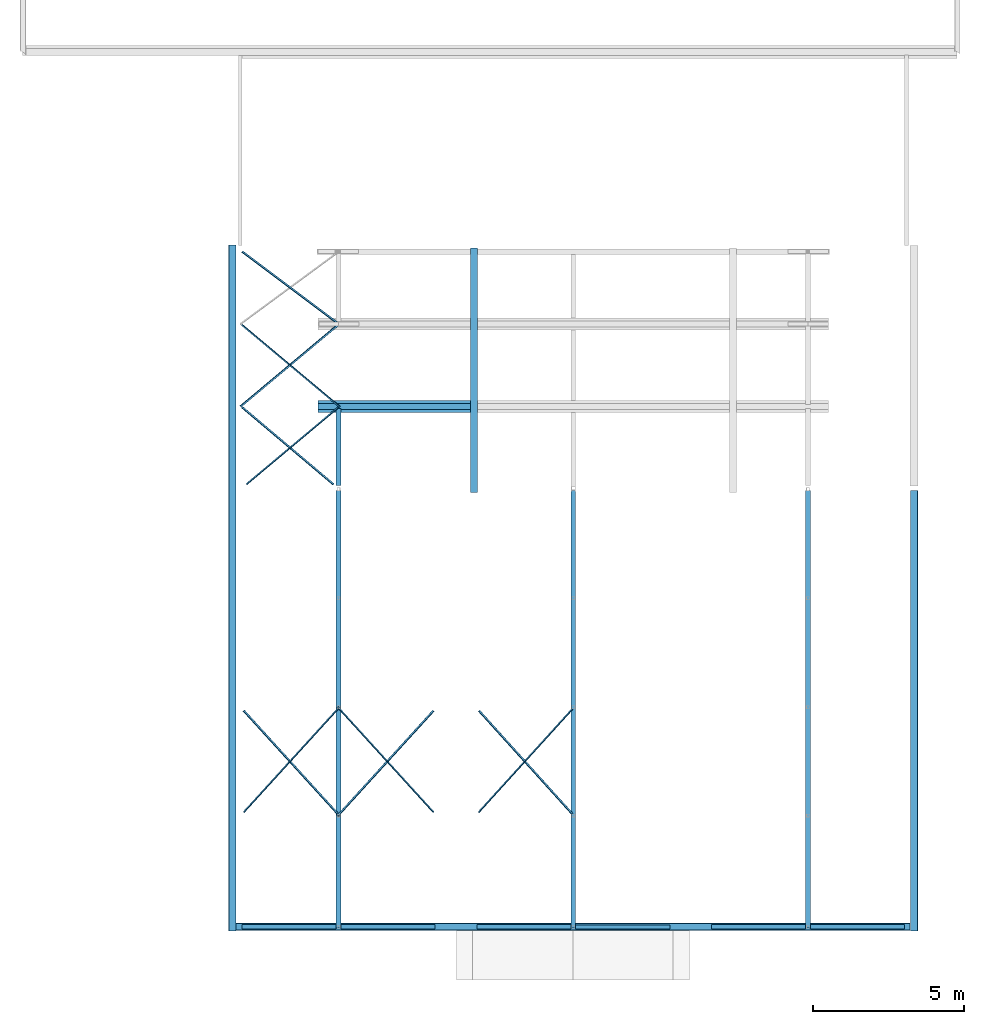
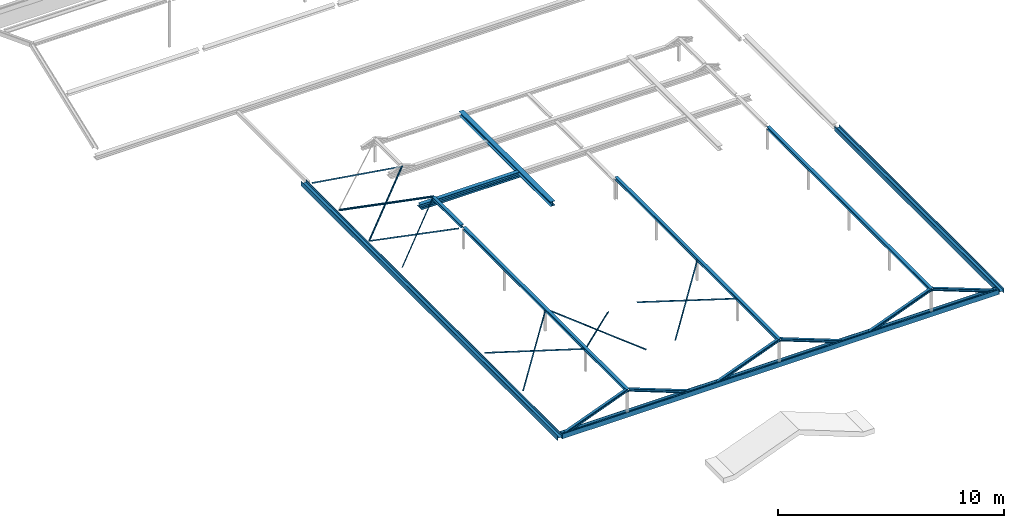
# One storey, part 5 of 10: 26 beams.
"""IFC2X3 building model written with IfcOpenShell, lengths in millimetres."""

from ifc_helpers import new_model, entity, si_unit, converted_unit, derived_unit, direction, frame, frame_2d, origin, place, context, subcontext, project, spatial, polyline, rectangle, i_section, outline, extrude, clip, halfspace, source, transform, mapped, material, type_object, type_shapes, element, save


model = new_model("IFC2X3")

# Units and contexts
model_context = context("Model", 3, precision=0.01, world=origin(), true_north=direction((6.123031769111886e-17, 1.0)))
body_context = subcontext(model_context, "Body", "Model", "MODEL_VIEW")
ifc_project = project(units=[si_unit("LENGTHUNIT", "METRE", prefix="MILLI"), si_unit("AREAUNIT", "SQUARE_METRE", prefix="MILLI"), si_unit("VOLUMEUNIT", "CUBIC_METRE"), converted_unit("PLANEANGLEUNIT", "DEGREE", entity("IfcPlaneAngleMeasure", 0.017453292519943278), si_unit("PLANEANGLEUNIT", "RADIAN"), dimensions=[0, 0, 0, 0, 0, 0, 0]), si_unit("MASSUNIT", "GRAM", prefix="KILO"), derived_unit("MASSDENSITYUNIT", [(si_unit("MASSUNIT", "GRAM", prefix="KILO"), 1), (si_unit("LENGTHUNIT", "METRE"), -3)]), derived_unit("IONCONCENTRATIONUNIT", [(si_unit("MASSUNIT", "GRAM", prefix="KILO"), 1), (si_unit("LENGTHUNIT", "METRE"), -3)]), derived_unit("MOMENTOFINERTIAUNIT", [(si_unit("LENGTHUNIT", "METRE"), 4)]), si_unit("TIMEUNIT", "SECOND"), si_unit("FREQUENCYUNIT", "HERTZ"), si_unit("THERMODYNAMICTEMPERATUREUNIT", "DEGREE_CELSIUS"), derived_unit("THERMALTRANSMITTANCEUNIT", [(si_unit("MASSUNIT", "GRAM", prefix="KILO"), 1), (si_unit("THERMODYNAMICTEMPERATUREUNIT", "KELVIN"), -1), (si_unit("TIMEUNIT", "SECOND"), -3)]), derived_unit("THERMALCONDUCTANCEUNIT", [(si_unit("MASSUNIT", "GRAM", prefix="KILO"), 1), (si_unit("THERMODYNAMICTEMPERATUREUNIT", "KELVIN"), -1), (si_unit("TIMEUNIT", "SECOND"), -3), (si_unit("LENGTHUNIT", "METRE"), 1)]), derived_unit("VOLUMETRICFLOWRATEUNIT", [(si_unit("LENGTHUNIT", "METRE", prefix="DECI"), 3), (si_unit("TIMEUNIT", "SECOND"), -1)]), derived_unit("MASSFLOWRATEUNIT", [(si_unit("MASSUNIT", "GRAM", prefix="KILO"), 1), (si_unit("TIMEUNIT", "SECOND"), -1)]), derived_unit("ROTATIONALFREQUENCYUNIT", [(si_unit("TIMEUNIT", "SECOND"), -1)]), si_unit("ELECTRICCURRENTUNIT", "AMPERE"), si_unit("ELECTRICVOLTAGEUNIT", "VOLT"), si_unit("POWERUNIT", "WATT"), si_unit("FORCEUNIT", "NEWTON", prefix="KILO"), si_unit("ILLUMINANCEUNIT", "LUX"), si_unit("LUMINOUSFLUXUNIT", "LUMEN"), si_unit("LUMINOUSINTENSITYUNIT", "CANDELA"), si_unit("ENERGYUNIT", "JOULE"), derived_unit("USERDEFINED", [(si_unit("MASSUNIT", "GRAM", prefix="KILO"), -1), (si_unit("LENGTHUNIT", "METRE"), -2), (si_unit("TIMEUNIT", "SECOND"), 3), (si_unit("LUMINOUSFLUXUNIT", "LUMEN"), 1)]), derived_unit("USERDEFINED", [(si_unit("MASSUNIT", "GRAM", prefix="KILO"), 1), (si_unit("TIMEUNIT", "SECOND"), -3), (si_unit("LENGTHUNIT", "METRE"), 3), (si_unit("ELECTRICCURRENTUNIT", "AMPERE"), -2)]), derived_unit("SOUNDPOWERUNIT", [(si_unit("MASSUNIT", "GRAM", prefix="KILO"), 1), (si_unit("TIMEUNIT", "SECOND"), -3), (si_unit("LENGTHUNIT", "METRE"), 2)]), derived_unit("SOUNDPRESSUREUNIT", [(si_unit("MASSUNIT", "GRAM", prefix="KILO"), 1), (si_unit("LENGTHUNIT", "METRE"), -1), (si_unit("TIMEUNIT", "SECOND"), -2)]), derived_unit("LINEARVELOCITYUNIT", [(si_unit("LENGTHUNIT", "METRE"), 1), (si_unit("TIMEUNIT", "SECOND"), -1)]), si_unit("PRESSUREUNIT", "PASCAL"), derived_unit("USERDEFINED", [(si_unit("MASSUNIT", "GRAM", prefix="KILO"), 1), (si_unit("LENGTHUNIT", "METRE"), -2), (si_unit("TIMEUNIT", "SECOND"), -2)]), derived_unit("LINEARFORCEUNIT", [(si_unit("MASSUNIT", "GRAM", prefix="KILO"), 1), (si_unit("TIMEUNIT", "SECOND"), -2)]), derived_unit("PLANARFORCEUNIT", [(si_unit("MASSUNIT", "GRAM", prefix="KILO"), 1), (si_unit("LENGTHUNIT", "METRE"), -1), (si_unit("TIMEUNIT", "SECOND"), -2)]), derived_unit("SPECIFICHEATCAPACITYUNIT", [(si_unit("THERMODYNAMICTEMPERATUREUNIT", "KELVIN"), -1), (si_unit("LENGTHUNIT", "METRE"), 2), (si_unit("TIMEUNIT", "SECOND"), -2)]), derived_unit("HEATFLUXDENSITYUNIT", [(si_unit("MASSUNIT", "GRAM", prefix="KILO"), 1), (si_unit("TIMEUNIT", "SECOND"), -3)]), derived_unit("HEATINGVALUEUNIT", [(si_unit("LENGTHUNIT", "METRE"), 2), (si_unit("TIMEUNIT", "SECOND"), -2)]), derived_unit("VAPORPERMEABILITYUNIT", [(si_unit("LENGTHUNIT", "METRE"), -1), (si_unit("TIMEUNIT", "SECOND"), 1)]), derived_unit("DYNAMICVISCOSITYUNIT", [(si_unit("MASSUNIT", "GRAM", prefix="KILO"), 1), (si_unit("TIMEUNIT", "SECOND"), -1), (si_unit("LENGTHUNIT", "METRE"), -1)]), derived_unit("THERMALEXPANSIONCOEFFICIENTUNIT", [(si_unit("THERMODYNAMICTEMPERATUREUNIT", "KELVIN"), -1)]), derived_unit("MODULUSOFELASTICITYUNIT", [(si_unit("MASSUNIT", "GRAM", prefix="KILO"), 1), (si_unit("LENGTHUNIT", "METRE"), -1), (si_unit("TIMEUNIT", "SECOND"), -2)]), derived_unit("ISOTHERMALMOISTURECAPACITYUNIT", [(si_unit("MASSUNIT", "GRAM", prefix="KILO"), -1), (si_unit("LENGTHUNIT", "METRE"), 3)]), derived_unit("MOISTUREDIFFUSIVITYUNIT", [(si_unit("TIMEUNIT", "SECOND"), -1), (si_unit("LENGTHUNIT", "METRE"), 2)]), derived_unit("MASSPERLENGTHUNIT", [(si_unit("MASSUNIT", "GRAM", prefix="KILO"), 1), (si_unit("LENGTHUNIT", "METRE"), -1)]), derived_unit("THERMALRESISTANCEUNIT", [(si_unit("MASSUNIT", "GRAM", prefix="KILO"), -1), (si_unit("TIMEUNIT", "SECOND"), 3), (si_unit("THERMODYNAMICTEMPERATUREUNIT", "KELVIN"), 1)]), derived_unit("ACCELERATIONUNIT", [(si_unit("LENGTHUNIT", "METRE"), 1), (si_unit("TIMEUNIT", "SECOND"), -2)]), derived_unit("ANGULARVELOCITYUNIT", [(si_unit("TIMEUNIT", "SECOND"), -1), (si_unit("PLANEANGLEUNIT", "RADIAN"), 1)]), derived_unit("LINEARSTIFFNESSUNIT", [(si_unit("MASSUNIT", "GRAM", prefix="KILO"), 1), (si_unit("TIMEUNIT", "SECOND"), -2)]), derived_unit("WARPINGCONSTANTUNIT", [(si_unit("LENGTHUNIT", "METRE"), 6)]), derived_unit("LINEARMOMENTUNIT", [(si_unit("MASSUNIT", "GRAM", prefix="KILO"), 1), (si_unit("LENGTHUNIT", "METRE"), 1), (si_unit("TIMEUNIT", "SECOND"), -2)]), derived_unit("TORQUEUNIT", [(si_unit("MASSUNIT", "GRAM", prefix="KILO"), 1), (si_unit("LENGTHUNIT", "METRE"), 2), (si_unit("TIMEUNIT", "SECOND"), -2)])], contexts=[model_context])

# Site, building, storey
site_placement = place(None, origin())
site = spatial("IfcSite", under=ifc_project, at=site_placement, Name="Default", CompositionType="ELEMENT")
building_placement = place(site_placement, origin())
building = spatial("IfcBuilding", under=site, at=building_placement, CompositionType="ELEMENT")
storey_placement = place(building_placement, frame((0.0, 0.0, 11700.0)))
storey = spatial("IfcBuildingStorey", under=building, at=storey_placement, Name="V4 BK metselwerk", CompositionType="ELEMENT", Elevation=11699.999999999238)

# Beams
ifc_material = material(Name="Metal - Steel - S235 JRG2 (standaard)")
beam_type_1 = type_object("IfcBeamType", Name="btl_staal - HE(a-b-m):HEA160.", PredefinedType="NOTDEFINED")
beam_1_placement = place(storey_placement, frame((10225.896298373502, 20157.92931863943, 409.70628815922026), z_axis=(0.0, 0.0, 1.0), x_axis=(0.0, -1.0, 0.0)))
element("IfcBeam", 1, at=beam_1_placement, inside=storey, type_object=beam_type_1, material=ifc_material, Name="btl_staal - HE(a-b-m):HEA160.", ObjectType="btl_staal - HE(a-b-m):HEA160.", context=body_context, shape_type="SweptSolid", body=[
    extrude(i_section(OverallWidth=160.00000000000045, OverallDepth=151.99999999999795, WebThickness=6.000000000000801, FlangeThickness=9.000000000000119, at=frame_2d((3.247180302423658e-12, 3.247180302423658e-12), x_axis=(0.0, 1.0))), frame((0.0, 0.0, -76.0), z_axis=(1.0, 0.0, 0.0), x_axis=(0.0, 0.0, -1.0)), (0.0, 0.0, 1.0), 2543.324305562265),
])
beam_2_placement = place(storey_placement, frame((10225.8962983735, 17449.605013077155, 409.70628815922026), z_axis=(0.0, 0.0, 1.0), x_axis=(0.0, -1.0, 0.0)))
element("IfcBeam", 2, at=beam_2_placement, inside=storey, type_object=beam_type_1, material=ifc_material, Name="btl_staal - HE(a-b-m):HEA160.", ObjectType="btl_staal - HE(a-b-m):HEA160.", context=body_context, shape_type="SweptSolid", body=[
    extrude(i_section(OverallWidth=160.00000000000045, OverallDepth=151.99999999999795, WebThickness=6.000000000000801, FlangeThickness=9.000000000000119, at=frame_2d((3.247180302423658e-12, 3.247180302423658e-12), x_axis=(0.0, 1.0))), frame((0.0, 0.0, -76.0), z_axis=(1.0, 0.0, 0.0), x_axis=(0.0, 0.0, -1.0)), (0.0, 0.0, 1.0), 14451.999999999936),
])
beam_3_placement = place(storey_placement, frame((17974.986142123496, 17449.605013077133, 409.70628815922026), z_axis=(0.0, 0.0, 1.0), x_axis=(0.0, -1.0, 0.0)))
element("IfcBeam", 3, at=beam_3_placement, inside=storey, type_object=beam_type_1, material=ifc_material, Name="btl_staal - HE(a-b-m):HEA160.", ObjectType="btl_staal - HE(a-b-m):HEA160.", context=body_context, shape_type="SweptSolid", body=[
    extrude(i_section(OverallWidth=160.00000000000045, OverallDepth=151.99999999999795, WebThickness=6.000000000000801, FlangeThickness=9.000000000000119, at=frame_2d((3.247180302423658e-12, -1.0871303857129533e-12), x_axis=(0.0, 1.0))), frame((0.0, 0.0, -76.0), z_axis=(1.0, 0.0, 0.0), x_axis=(0.0, 0.0, -1.0)), (0.0, 0.0, 1.0), 14451.999999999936),
])
beam_4_placement = place(storey_placement, frame((25724.0798921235, 17449.605013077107, 409.70628815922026), z_axis=(0.0, 0.0, 1.0), x_axis=(0.0, -1.0, 0.0)))
element("IfcBeam", 4, at=beam_4_placement, inside=storey, type_object=beam_type_1, material=ifc_material, Name="btl_staal - HE(a-b-m):HEA160.", ObjectType="btl_staal - HE(a-b-m):HEA160.", context=body_context, shape_type="SweptSolid", body=[
    extrude(i_section(OverallWidth=159.99999999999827, OverallDepth=151.99999999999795, WebThickness=5.999999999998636, FlangeThickness=9.000000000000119, at=frame_2d((3.247180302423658e-12, 2.1671553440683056e-12), x_axis=(0.0, 1.0))), frame((0.0, 0.0, -76.0), z_axis=(1.0, 0.0, 0.0), x_axis=(0.0, 0.0, -1.0)), (0.0, 0.0, 1.0), 14451.999999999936),
])
beam_type_2 = type_object("IfcBeamType", Name="btl_staal - HE(a-b-m):HEB240", PredefinedType="NOTDEFINED")
beam_5_placement = place(storey_placement, frame((14699.863108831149, 17384.60501307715, 240.0), z_axis=(0.0, 0.0, 1.0), x_axis=(0.0, 1.0, 0.0)))
element("IfcBeam", 5, at=beam_5_placement, inside=storey, type_object=beam_type_2, material=ifc_material, Name="btl_staal - HE(a-b-m):HEB240", ObjectType="btl_staal - HE(a-b-m):HEB240", context=body_context, shape_type="SweptSolid", body=[
    extrude(i_section(OverallWidth=239.99999999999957, OverallDepth=239.9999999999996, WebThickness=9.999999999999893, FlangeThickness=17.000000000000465, at=frame_2d((3.247180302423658e-12, -1.0871303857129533e-12), x_axis=(0.0, 1.0))), frame((0.0, 0.0, -120.0), z_axis=(1.0, 0.0, 0.0), x_axis=(0.0, 0.0, -1.0)), (0.0, 0.0, 1.0), 8085.000000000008),
])
beam_type_3 = type_object("IfcBeamType", Name="btl_staal - HE(a-b-m):HEA260", PredefinedType="NOTDEFINED")
beam_6_placement = place(storey_placement, frame((29106.986142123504, 2912.605013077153, -912.0), z_axis=(0.0, 0.0, 1.0), x_axis=(0.0, 1.0, 0.0)))
element("IfcBeam", 6, at=beam_6_placement, inside=storey, type_object=beam_type_3, material=ifc_material, Name="btl_staal - HE(a-b-m):HEA260", ObjectType="btl_staal - HE(a-b-m):HEA260", context=body_context, shape_type="SweptSolid", body=[
    extrude(i_section(OverallWidth=259.9999999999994, OverallDepth=249.9999999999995, WebThickness=7.50000000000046, FlangeThickness=12.499999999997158, at=frame_2d((-1.0800249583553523e-12, -2.1671553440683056e-12), x_axis=(1.0, 0.0))), frame((0.0, -125.0, 0.0), z_axis=(1.0, 0.0, 0.0), x_axis=(0.0, 0.0, -1.0)), (0.0, 0.0, 1.0), 14542.00000000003),
])
beam_7_placement = place(storey_placement, frame((6593.000781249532, 2912.6050130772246, -912.0), z_axis=(0.0, 0.0, 1.0), x_axis=(0.0, 1.0, 0.0)))
element("IfcBeam", 7, at=beam_7_placement, inside=storey, type_object=beam_type_3, material=ifc_material, Name="btl_staal - HE(a-b-m):HEA260", ObjectType="btl_staal - HE(a-b-m):HEA260", context=body_context, shape_type="SweptSolid", body=[
    extrude(i_section(OverallWidth=259.9999999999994, OverallDepth=249.9999999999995, WebThickness=7.50000000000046, FlangeThickness=12.499999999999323, at=frame_2d((-1.0800249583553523e-12, -1.0871303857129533e-12), x_axis=(1.0, 0.0))), frame((0.0, -125.0, 0.0), z_axis=(1.0, 0.0, 0.0), x_axis=(0.0, 0.0, -1.0)), (0.0, 0.0, 1.0), 22645.97280507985),
])
beam_8_placement = place(storey_placement, frame((6843.000781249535, 3047.6050130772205, -912.0468749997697)))
element("IfcBeam", 8, at=beam_8_placement, inside=storey, type_object=beam_type_3, material=ifc_material, Name="btl_staal - HE(a-b-m):HEA260", ObjectType="btl_staal - HE(a-b-m):HEA260", context=body_context, shape_type="SweptSolid", body=[
    extrude(i_section(OverallWidth=259.9999999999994, OverallDepth=250.0, WebThickness=7.499999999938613, FlangeThickness=12.499999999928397, at=frame_2d((-3.240074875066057e-12, -2.7000623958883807e-13), x_axis=(1.0, 0.0))), frame((0.0, 0.0, 0.0), z_axis=(1.0, 0.0, 0.0), x_axis=(0.0, 0.0, -1.0)), (0.0, 0.0, 1.0), 22258.98498885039),
])
beam_type_4 = type_object("IfcBeamType", Name="btl_staal - HE(a-b-m):HEA140", PredefinedType="NOTDEFINED")
beam_9_placement = place(storey_placement, frame((6957.639943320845, 3047.6050130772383, -813.430359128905), z_axis=(-0.3581840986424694, 0.0, 0.933650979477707), x_axis=(0.933650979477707, 0.0, 0.3581840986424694)))
element("IfcBeam", 9, at=beam_9_placement, inside=storey, type_object=beam_type_4, material=ifc_material, Name="btl_staal - HE(a-b-m):HEA140", ObjectType="btl_staal - HE(a-b-m):HEA140", context=body_context, shape_type="SweptSolid", body=[
    clip(clip(extrude(i_section(OverallWidth=140.00000000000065, OverallDepth=133.0, WebThickness=5.500000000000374, FlangeThickness=8.500000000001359, at=frame_2d((-1.2079226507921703e-12, 2.7000623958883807e-13), x_axis=(0.0, 1.0))), frame((87.61830647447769, 0.0, -66.50000000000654), z_axis=(1.0, 0.0, 0.0), x_axis=(0.0, 0.0, -1.0)), (0.0, 0.0, 1.0), 3327.208459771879), halfspace(frame((434.29919136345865, -3475.0, -133.0), z_axis=(-0.35818409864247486, 0.0, -0.9336509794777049), x_axis=(0.0, 1.0, 0.0)), False)), halfspace(frame((3414.82676624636, -3475.0, 0.0), z_axis=(0.933650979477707, 0.0, -0.3581840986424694), x_axis=(0.0, 1.0, 0.0)), False)),
])
beam_10_placement = place(storey_placement, frame((10249.715617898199, 3047.605013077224, 431.2593754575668), z_axis=(0.35818463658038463, 0.0, 0.9336507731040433), x_axis=(0.9336507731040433, 0.0, -0.35818463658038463)))
element("IfcBeam", 10, at=beam_10_placement, inside=storey, type_object=beam_type_4, material=ifc_material, Name="btl_staal - HE(a-b-m):HEA140", ObjectType="btl_staal - HE(a-b-m):HEA140", context=body_context, shape_type="SweptSolid", body=[
    clip(clip(extrude(i_section(OverallWidth=140.00000000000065, OverallDepth=132.99999999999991, WebThickness=5.500000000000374, FlangeThickness=8.500000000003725, at=frame_2d((1.0089706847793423e-12, 2.7000623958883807e-13), x_axis=(0.0, 1.0))), frame((60.1731205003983, 0.0, -66.50000000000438), z_axis=(1.0, 0.0, 0.0), x_axis=(0.0, 0.0, -1.0)), (0.0, 0.0, 1.0), 3327.203462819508), halfspace(frame((3387.376583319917, -3595.249786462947, 0.0), z_axis=(0.3581846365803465, 0.0, -0.933650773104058), x_axis=(0.0, 1.0, 0.0)), False)), halfspace(frame((111.19707724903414, -3595.249786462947, -133.0), z_axis=(-0.9336507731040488, 0.0, -0.3581846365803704), x_axis=(0.0, 1.0, 0.0)), False)),
])
beam_11_placement = place(storey_placement, frame((14585.107027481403, 3047.605013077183, -860.0450554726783), z_axis=(-0.358184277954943, 0.0, 0.9336509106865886), x_axis=(0.9336509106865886, 0.0, 0.358184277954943)))
element("IfcBeam", 11, at=beam_11_placement, inside=storey, type_object=beam_type_4, material=ifc_material, Name="btl_staal - HE(a-b-m):HEA140", ObjectType="btl_staal - HE(a-b-m):HEA140", context=body_context, shape_type="SweptSolid", body=[
    clip(clip(extrude(i_section(OverallWidth=140.0000000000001, OverallDepth=133.00000000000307, WebThickness=5.500000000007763, FlangeThickness=8.500000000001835, at=frame_2d((0.0, 2.7000623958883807e-13), x_axis=(0.0, 1.0))), frame((217.75992212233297, 0.0, -66.50000000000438), z_axis=(1.0, 0.0, 0.0), x_axis=(0.0, 0.0, -1.0)), (0.0, 0.0, 1.0), 3327.332870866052), halfspace(frame((0.0, 3555.0, 83.54105327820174), z_axis=(-0.358184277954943, 0.0, -0.9336509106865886), x_axis=(0.0, -1.0, 0.0)), False)), halfspace(frame((3557.5000000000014, -3555.0, 32.34089500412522), z_axis=(0.9336509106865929, 0.0, -0.3581842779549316), x_axis=(0.0, 1.0, 0.0)), False)),
])
beam_12_placement = place(storey_placement, frame((18050.396527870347, 3037.605013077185, 411.51219799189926), z_axis=(0.3581844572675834, 0.0, 0.9336508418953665), x_axis=(0.9336508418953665, 0.0, -0.3581844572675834)))
element("IfcBeam", 12, at=beam_12_placement, inside=storey, type_object=beam_type_4, material=ifc_material, Name="btl_staal - HE(a-b-m):HEA140", ObjectType="btl_staal - HE(a-b-m):HEA140", context=body_context, shape_type="SweptSolid", body=[
    clip(clip(extrude(i_section(OverallWidth=140.0000000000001, OverallDepth=132.99999999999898, WebThickness=5.500000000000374, FlangeThickness=8.5000000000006, at=frame_2d((0.0, 2.7000623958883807e-13), x_axis=(0.0, 1.0))), frame((4.915771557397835, 0.0, -66.50000000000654), z_axis=(1.0, 0.0, 0.0), x_axis=(0.0, 0.0, -1.0)), (0.0, 0.0, 1.0), 3327.3312000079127), halfspace(frame((2985.5664848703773, 3610.0, -133.0), z_axis=(0.35818445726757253, 0.0, -0.9336508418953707), x_axis=(0.0, -1.0, 0.0)), False)), halfspace(frame((0.0, 3610.0, 12.81354944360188), z_axis=(-0.9336508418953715, 0.0, -0.3581844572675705), x_axis=(0.0, -1.0, 0.0)), False)),
])
beam_13_placement = place(storey_placement, frame((22484.733109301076, 3047.605013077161, -802.2943848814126), z_axis=(-0.3581840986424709, 0.0, 0.9336509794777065), x_axis=(0.9336509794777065, 0.0, 0.3581840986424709)))
element("IfcBeam", 13, at=beam_13_placement, inside=storey, type_object=beam_type_4, material=ifc_material, Name="btl_staal - HE(a-b-m):HEA140", ObjectType="btl_staal - HE(a-b-m):HEA140", context=body_context, shape_type="SweptSolid", body=[
    clip(clip(extrude(i_section(OverallWidth=140.0000000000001, OverallDepth=133.00000000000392, WebThickness=5.500000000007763, FlangeThickness=8.500000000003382, at=frame_2d((2.7995383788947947e-12, 8.100187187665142e-13), x_axis=(0.0, 1.0))), frame((56.528220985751, 0.0, -66.50000000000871), z_axis=(1.0, 0.0, 0.0), x_axis=(0.0, 0.0, -1.0)), (0.0, 0.0, 1.0), 3327.3345417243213), halfspace(frame((403.209105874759, -3464.4570841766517, -133.0), z_axis=(-0.3581840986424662, 0.0, -0.9336509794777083), x_axis=(0.0, 1.0, 0.0)), False)), halfspace(frame((3383.8627627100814, -3464.4570841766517, 0.0), z_axis=(0.9336509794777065, 0.0, -0.3581840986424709), x_axis=(0.0, 1.0, 0.0)), False)),
])
beam_14_placement = place(storey_placement, frame((25728.83295417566, 3047.6050130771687, 438.61910083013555), z_axis=(0.35818481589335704, 0.0, 0.933650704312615), x_axis=(0.933650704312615, 0.0, -0.35818481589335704)))
element("IfcBeam", 14, at=beam_14_placement, inside=storey, type_object=beam_type_4, material=ifc_material, Name="btl_staal - HE(a-b-m):HEA140", ObjectType="btl_staal - HE(a-b-m):HEA140", context=body_context, shape_type="SweptSolid", body=[
    clip(clip(extrude(i_section(OverallWidth=140.0000000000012, OverallDepth=132.99999999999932, WebThickness=5.500000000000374, FlangeThickness=8.500000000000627, at=frame_2d((-1.0160761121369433e-12, 5.400124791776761e-13), x_axis=(0.0, 1.0))), frame((80.59431391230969, 0.0, -66.50000000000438), z_axis=(1.0, 0.0, 0.0), x_axis=(0.0, 0.0, -1.0)), (0.0, 0.0, 1.0), 3327.3278582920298), halfspace(frame((3407.9221722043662, -3450.0, 0.0), z_axis=(0.3581848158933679, 0.0, -0.9336507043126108), x_axis=(0.0, 1.0, 0.0)), False)), halfspace(frame((80.59431391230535, 3450.0, 0.0), z_axis=(-0.933650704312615, 0.0, -0.35818481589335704), x_axis=(0.0, -1.0, 0.0)), False)),
])
beam_type_5 = type_object("IfcBeamType", Name="btl_staal - SFB:HEB200+400x8", PredefinedType="BEAM", material=ifc_material)
shared_shape = source(origin(), body_context, "Body", "SweptSolid", [
    extrude(outline(polyline([(85.0, -100.0), (100.0, -100.0), (100.0, 100.0), (85.0, 100.0), (85.0, 4.499999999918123), (-85.0, 4.500000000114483), (-85.0, 100.0), (-100.0, 100.0), (-100.0, -100.0), (-85.0, -100.0), (-85.0, -4.499999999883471), (85.0, -4.500000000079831), (85.0, -100.0)])), frame((9547.054234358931, 20227.929318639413, 11800.0), z_axis=(1.0, 0.0, 0.0), x_axis=(0.0, 0.0, -1.0)), (0.0, 0.0, 1.0), 5032.808874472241),
    extrude(rectangle(XDim=15.000000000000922, YDim=400.0, at=frame_2d((-2.1658230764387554e-12, 1.5162981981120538e-11), x_axis=(1.0, 0.0))), frame((9547.054234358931, 20227.929318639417, 11692.500000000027), z_axis=(1.0, 0.0, 0.0), x_axis=(0.0, 0.0, -1.0)), (0.0, 0.0, 1.0), 5032.808874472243),
])
type_shapes(beam_type_5, [shared_shape])
beam_15_placement = place(storey_placement, frame((0.0, 0.0, -11700.0)))
element("IfcBeam", 15, at=beam_15_placement, inside=storey, type_object=beam_type_5, material=ifc_material, Name="btl_staal - SFB:HEB200+400x8", ObjectType="btl_staal - SFB:HEB200+400x8", context=body_context, shape_type="MappedRepresentation", body=[
    mapped(shared_shape, transform((0.0, 0.0, 0.0), scale=1.0)),
])
beam_type_6 = type_object("IfcBeamType", Name="btl_staal - Hoeklijn 2.0:L 60X60X8", PredefinedType="NOTDEFINED")
beam_16_placement = place(storey_placement, frame((6974.543005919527, 6719.605013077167, -877.2262989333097), z_axis=(-0.16848782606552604, -0.18491861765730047, 0.9682029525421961), x_axis=(0.652088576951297, 0.7156797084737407, 0.2501660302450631)))
element("IfcBeam", 16, at=beam_16_placement, inside=storey, type_object=beam_type_6, material=ifc_material, Name="btl_staal - Hoeklijn 2.0:L 60X60X8", ObjectType="btl_staal - Hoeklijn 2.0:L 60X60X8", context=body_context, shape_type="SweptSolid", body=[
    extrude(outline(polyline([(-37.33333333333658, -14.666666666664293), (-37.33333333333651, -22.66666666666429), (22.66666666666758, -22.66666666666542), (22.6666666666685, 37.33333333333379), (14.66666666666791, 37.33333333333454), (14.666666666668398, -14.666666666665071), (-37.33333333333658, -14.666666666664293)])), frame((152.0216194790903, -15.239668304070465, -34.53070805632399), z_axis=(-1.0, 0.0, 0.0), x_axis=(0.0, -0.9643132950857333, 0.26476379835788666)), (0.0, 0.0, -1.0), 4759.464902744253),
])
beam_17_placement = place(storey_placement, frame((6974.54300591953, 10294.60501307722, -877.2262989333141), z_axis=(-0.1684878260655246, 0.18491861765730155, 0.9682029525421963), x_axis=(0.6520885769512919, -0.7156797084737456, 0.25016603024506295)))
element("IfcBeam", 17, at=beam_17_placement, inside=storey, type_object=beam_type_6, material=ifc_material, Name="btl_staal - Hoeklijn 2.0:L 60X60X8", ObjectType="btl_staal - Hoeklijn 2.0:L 60X60X8", context=body_context, shape_type="SweptSolid", body=[
    extrude(outline(polyline([(-37.333333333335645, -14.666666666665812), (-37.33333333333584, -22.66666666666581), (22.66666666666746, -22.666666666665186), (22.666666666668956, 37.33333333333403), (14.66666666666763, 37.33333333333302), (14.66666666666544, -14.666666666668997), (-37.333333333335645, -14.666666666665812)])), frame((155.49580758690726, 4.529361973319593, -37.471351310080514), z_axis=(-1.0, 0.0, 0.0), x_axis=(0.0, -0.9643132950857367, -0.264763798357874)), (0.0, 0.0, -1.0), 4752.342783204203),
])
beam_18_placement = place(storey_placement, frame((7022.524933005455, 25344.605013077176, -858.8186030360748), z_axis=(-0.23472949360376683, 0.17603940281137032, 0.9559875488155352), x_axis=(0.7648021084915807, -0.573576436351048, 0.2934072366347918)))
element("IfcBeam", 18, at=beam_18_placement, inside=storey, type_object=beam_type_6, material=ifc_material, Name="btl_staal - Hoeklijn 2.0:L 60X60X8", ObjectType="btl_staal - Hoeklijn 2.0:L 60X60X8", context=body_context, shape_type="SweptSolid", body=[
    extrude(outline(polyline([(-37.33333333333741, -14.666666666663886), (-37.333333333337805, -22.666666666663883), (22.666666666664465, -22.666666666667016), (22.66666666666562, 37.333333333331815), (14.666666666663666, 37.33333333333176), (14.666666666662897, -14.66666666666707), (-37.33333333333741, -14.666666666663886)])), frame((0.0, 2.5995185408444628, -37.65447904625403), z_axis=(-1.0, 0.0, 0.0), x_axis=(0.0, -0.9766350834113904, -0.2149044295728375)), (0.0, 0.0, -1.0), 4204.604364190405),
])
beam_19_placement = place(storey_placement, frame((10219.397746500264, 22947.055509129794, 367.623646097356), z_axis=(-0.21646245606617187, -0.1811372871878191, 0.9593400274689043), x_axis=(-0.7357270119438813, -0.6156614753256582, -0.28225292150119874)))
element("IfcBeam", 19, at=beam_19_placement, inside=storey, type_object=beam_type_6, material=ifc_material, Name="btl_staal - Hoeklijn 2.0:L 60X60X8", ObjectType="btl_staal - Hoeklijn 2.0:L 60X60X8", context=body_context, shape_type="SweptSolid", body=[
    extrude(outline(polyline([(-37.333333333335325, -14.666666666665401), (-37.3333333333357, -22.666666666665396), (22.666666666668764, -22.66666666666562), (22.6666666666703, 37.33333333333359), (14.6666666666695, 37.333333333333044), (14.666666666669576, -14.666666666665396), (-37.333333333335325, -14.666666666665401)])), frame((50.83714119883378, 3.1770562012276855, -37.61015292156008), z_axis=(-1.0, 0.0, 0.0), x_axis=(0.0, -0.9732221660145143, -0.22986651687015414)), (0.0, 0.0, -1.0), 4370.437211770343),
])
beam_20_placement = place(storey_placement, frame((6982.198893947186, 20238.1450176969, -874.2892085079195), z_axis=(-0.21494438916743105, 0.18146606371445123, 0.9596191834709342), x_axis=(0.7332492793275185, -0.6190431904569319, 0.2813023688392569)))
element("IfcBeam", 20, at=beam_20_placement, inside=storey, type_object=beam_type_6, material=ifc_material, Name="btl_staal - Hoeklijn 2.0:L 60X60X8", ObjectType="btl_staal - Hoeklijn 2.0:L 60X60X8", context=body_context, shape_type="SweptSolid", body=[
    extrude(outline(polyline([(-37.33333333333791, -14.666666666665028), (-37.33333333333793, -22.666666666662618), (22.666666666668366, -22.66666666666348), (22.66666666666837, 37.33333333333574), (14.66666666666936, 37.333333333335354), (14.66666666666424, -14.666666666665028), (-37.33333333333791, -14.666666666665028)])), frame((53.196830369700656, 3.2232558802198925, -37.60622169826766), z_axis=(-1.0, 0.0, 0.0), x_axis=(0.0, -0.9729390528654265, -0.2310618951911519)), (0.0, 0.0, -1.0), 4114.974313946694),
])
beam_21_placement = place(storey_placement, frame((6967.938266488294, 17494.605013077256, -879.7601286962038), z_axis=(-0.2164624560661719, -0.1811372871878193, 0.9593400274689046), x_axis=(0.7357270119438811, 0.6156614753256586, 0.28225292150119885)))
element("IfcBeam", 21, at=beam_21_placement, inside=storey, type_object=beam_type_6, material=ifc_material, Name="btl_staal - Hoeklijn 2.0:L 60X60X8", ObjectType="btl_staal - Hoeklijn 2.0:L 60X60X8", context=body_context, shape_type="SweptSolid", body=[
    extrude(outline(polyline([(-37.33333333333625, -14.666666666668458), (-37.33333333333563, -22.66666666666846), (22.666666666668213, -22.666666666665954), (22.66666666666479, 37.33333333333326), (14.666666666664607, 37.33333333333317), (14.666666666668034, -14.666666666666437), (-37.33333333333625, -14.666666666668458)])), frame((264.8300930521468, -13.986310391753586, -35.05710214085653), z_axis=(-1.0, 0.0, 0.0), x_axis=(0.0, -0.9732221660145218, 0.22986651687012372)), (0.0, 0.0, -1.0), 4121.8013746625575),
])
beam_22_placement = place(storey_placement, frame((10234.566199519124, 20228.14196352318, 373.4428427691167), z_axis=(-0.21639499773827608, 0.18115219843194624, 0.9593524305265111), x_axis=(-0.7356171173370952, 0.6158121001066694, -0.28221076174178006)))
element("IfcBeam", 22, at=beam_22_placement, inside=storey, type_object=beam_type_6, material=ifc_material, Name="btl_staal - Hoeklijn 2.0:L 60X60X8", ObjectType="btl_staal - Hoeklijn 2.0:L 60X60X8", context=body_context, shape_type="SweptSolid", body=[
    extrude(outline(polyline([(-37.33333333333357, -14.666666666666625), (-37.333333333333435, -22.66666666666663), (22.666666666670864, -22.66666666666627), (22.666666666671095, 37.333333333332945), (14.666666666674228, 37.333333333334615), (14.666666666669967, -14.666666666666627), (-37.33333333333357, -14.666666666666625)])), frame((-21.165339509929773, -13.988229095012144, -35.05633659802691), z_axis=(-1.0, 0.0, 0.0), x_axis=(0.0, -0.9732095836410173, 0.22991978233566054)), (0.0, 0.0, -1.0), 4401.699407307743),
])
beam_23_placement = place(storey_placement, frame((13477.249590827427, 6719.605013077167, -877.2262989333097), z_axis=(0.16848782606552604, -0.18491861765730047, 0.9682029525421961), x_axis=(-0.652088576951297, 0.7156797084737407, 0.2501660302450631)))
element("IfcBeam", 23, at=beam_23_placement, inside=storey, type_object=beam_type_6, material=ifc_material, Name="btl_staal - Hoeklijn 2.0:L 60X60X8", ObjectType="btl_staal - Hoeklijn 2.0:L 60X60X8", context=body_context, shape_type="SweptSolid", body=[
    extrude(outline(polyline([(-22.666666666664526, -22.66666666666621), (37.33333333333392, -22.666666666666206), (37.33333333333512, -14.666666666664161), (-14.6666666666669, -14.66666666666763), (-14.66666666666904, 37.33333333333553), (-22.666666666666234, 37.333333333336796), (-22.666666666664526, -22.66666666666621)])), frame((152.02161947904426, 15.239668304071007, -34.53070805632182), z_axis=(1.0, 0.0, 0.0), x_axis=(0.0, -0.2647637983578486, 0.9643132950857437)), (0.0, 0.0, 1.0), 4854.317343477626),
])
beam_24_placement = place(storey_placement, frame((13477.249590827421, 10294.60501307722, -877.2262989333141), z_axis=(0.1684878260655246, 0.18491861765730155, 0.9682029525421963), x_axis=(-0.6520885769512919, -0.7156797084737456, 0.25016603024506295)))
element("IfcBeam", 24, at=beam_24_placement, inside=storey, type_object=beam_type_6, material=ifc_material, Name="btl_staal - Hoeklijn 2.0:L 60X60X8", ObjectType="btl_staal - Hoeklijn 2.0:L 60X60X8", context=body_context, shape_type="SweptSolid", body=[
    extrude(outline(polyline([(-22.666666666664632, -22.66666666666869), (37.333333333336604, -22.666666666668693), (37.333333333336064, -14.66666666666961), (-14.66666666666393, -14.66666666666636), (-14.666666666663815, 37.333333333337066), (-22.66666666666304, 37.33333333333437), (-22.666666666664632, -22.66666666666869)])), frame((155.4958075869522, -4.52936197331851, -37.47135131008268), z_axis=(1.0, 0.0, 0.0), x_axis=(0.0, 0.2647637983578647, 0.9643132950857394)), (0.0, 0.0, 1.0), 4847.1952239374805),
])
beam_25_placement = place(storey_placement, frame((14744.122080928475, 10294.60501307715, -869.3665502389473), z_axis=(-0.1670447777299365, 0.18482500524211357, 0.9684708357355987), x_axis=(0.6493797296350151, -0.7184996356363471, 0.24912695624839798)))
element("IfcBeam", 25, at=beam_25_placement, inside=storey, type_object=beam_type_6, material=ifc_material, Name="btl_staal - Hoeklijn 2.0:L 60X60X8", ObjectType="btl_staal - Hoeklijn 2.0:L 60X60X8", context=body_context, shape_type="SweptSolid", body=[
    extrude(outline(polyline([(-37.33333333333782, -14.666666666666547), (-37.33333333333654, -22.66666666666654), (22.666666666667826, -22.66666666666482), (22.666666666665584, 37.33333333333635), (14.66666666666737, 37.33333333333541), (14.666666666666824, -14.666666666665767), (-37.33333333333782, -14.666666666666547)])), frame((154.80704312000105, 4.567050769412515, -37.46677643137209), z_axis=(-1.0, 0.0, 0.0), x_axis=(0.0, -0.9640464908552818, -0.2657336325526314)), (0.0, 0.0, -1.0), 4741.8764043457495),
])
beam_26_placement = place(storey_placement, frame((14734.988090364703, 6719.605013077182, -872.8706991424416), z_axis=(-0.16785221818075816, -0.18487892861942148, 0.9683209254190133), x_axis=(0.6508969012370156, 0.7169230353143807, 0.24970900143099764)))
element("IfcBeam", 26, at=beam_26_placement, inside=storey, type_object=beam_type_6, material=ifc_material, Name="btl_staal - Hoeklijn 2.0:L 60X60X8", ObjectType="btl_staal - Hoeklijn 2.0:L 60X60X8", context=body_context, shape_type="SweptSolid", body=[
    extrude(outline(polyline([(-37.33333333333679, -14.66666666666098), (-37.33333333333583, -22.666666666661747), (22.666666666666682, -22.666666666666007), (22.666666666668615, 37.33333333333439), (14.666666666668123, 37.33333333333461), (14.666666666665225, -14.666666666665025), (-37.33333333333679, -14.66666666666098)])), frame((151.72976141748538, -15.254986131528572, -34.523943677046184), z_axis=(-1.0, 0.0, 0.0), x_axis=(0.0, -0.9641957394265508, 0.26519158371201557)), (0.0, 0.0, -1.0), 4751.276193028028),
])

save(model, "model.ifc")
